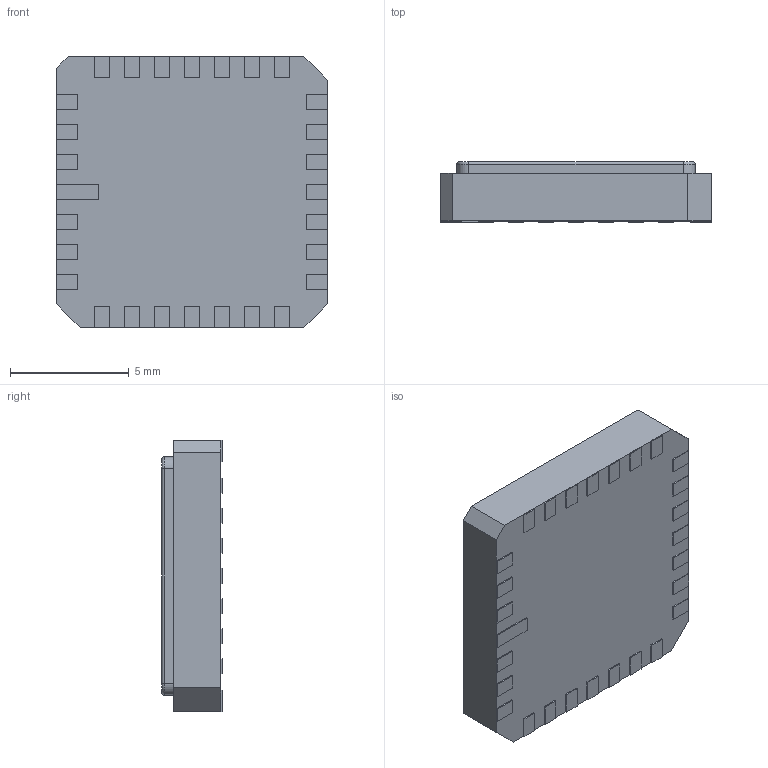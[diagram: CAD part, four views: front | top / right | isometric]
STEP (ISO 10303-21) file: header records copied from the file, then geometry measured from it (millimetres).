
FILE_DESCRIPTION (( 'STEP AP214' ), '1' );
FILE_NAME ( 'LCC127P1143X1143X254-28.STEP', '2014-04-11T12:31:19', ( '' ), ( '' ), 'FPX Expert 2013', 'PCB Libraries', '' );
FILE_SCHEMA (( 'AUTOMOTIVE_DESIGN' ));
Length unit declared in the file: millimetre
Products named in the file (1): LCC127P1143X1143X254-28
Bounding box: 11.43 x 2.54 x 11.43 mm (x, y, z)
Volume: 307.8 mm3; surface area: 400.6 mm2
Topology: 29 solids, 29 shells, 195 faces, 400 edges, 264 vertices
Faces by surface type: plane 183, cylinder 8, torus 4
Entity records: 5878 total; most frequent: CARTESIAN_POINT 860, DIRECTION 812, ORIENTED_EDGE 800, EDGE_CURVE 400, VECTOR 380, LINE 380, VERTEX_POINT 264, STYLED_ITEM 225
